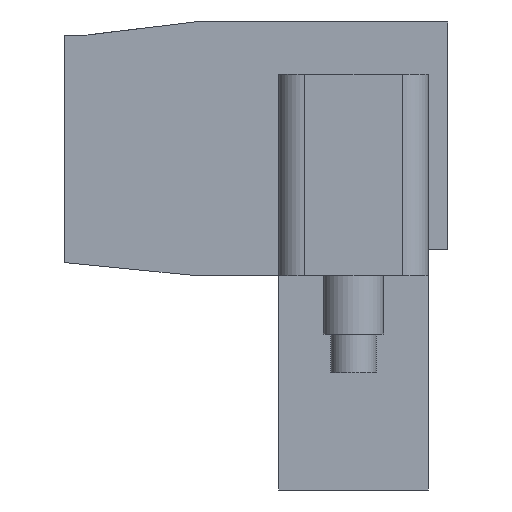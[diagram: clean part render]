
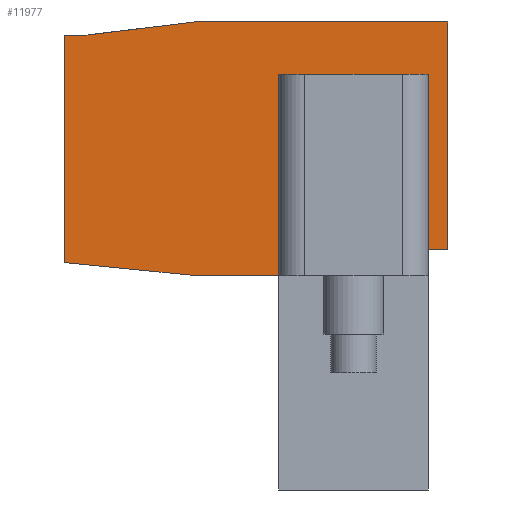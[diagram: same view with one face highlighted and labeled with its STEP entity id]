
A CAD part, left-side view. The second image highlights one B-rep face of the part: STEP entity #11977.
In plain terms, the highlighted planar face has unit normal (-1, 0, 0).
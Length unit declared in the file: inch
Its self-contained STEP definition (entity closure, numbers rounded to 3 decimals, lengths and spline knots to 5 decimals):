
#2965=DIRECTION('',(0.,0.,-1.));
#2966=VECTOR('',#2965,0.31);
#2967=CARTESIAN_POINT('',(-1.5,0.26,0.31));
#2968=LINE('',#2967,#2966);
#2969=DIRECTION('',(0.,-1.,0.));
#2970=VECTOR('',#2969,0.13);
#2971=CARTESIAN_POINT('',(-1.5,0.39,0.));
#2972=LINE('',#2971,#2970);
#2973=DIRECTION('',(0.,-0.995,-0.1));
#2974=VECTOR('',#2973,0.201);
#2975=CARTESIAN_POINT('',(-1.5,0.59,0.02));
#2976=LINE('',#2975,#2974);
#2977=DIRECTION('',(0.,0.,-1.));
#2978=VECTOR('',#2977,0.35);
#2979=CARTESIAN_POINT('',(-1.5,0.59,0.37));
#2980=LINE('',#2979,#2978);
#2981=DIRECTION('',(0.,1.,0.));
#2982=VECTOR('',#2981,0.035);
#2983=CARTESIAN_POINT('',(-1.5,0.555,0.37));
#2984=LINE('',#2983,#2982);
#2985=DIRECTION('',(0.,0.993,-0.12));
#2986=VECTOR('',#2985,0.16621);
#2987=CARTESIAN_POINT('',(-1.5,0.39,0.39));
#2988=LINE('',#2987,#2986);
#2989=DIRECTION('',(0.,1.,0.));
#2990=VECTOR('',#2989,0.39);
#2991=CARTESIAN_POINT('',(-1.5,0.,0.39));
#2992=LINE('',#2991,#2990);
#2993=DIRECTION('',(0.,0.,1.));
#2994=VECTOR('',#2993,0.35);
#2995=CARTESIAN_POINT('',(-1.5,0.,0.04));
#2996=LINE('',#2995,#2994);
#2997=DIRECTION('',(0.,-1.,0.));
#2998=VECTOR('',#2997,0.03);
#2999=CARTESIAN_POINT('',(-1.5,0.03,0.04));
#3000=LINE('',#2999,#2998);
#3001=DIRECTION('',(0.,0.,1.));
#3002=VECTOR('',#3001,0.27);
#3003=CARTESIAN_POINT('',(-1.5,0.03,0.04));
#3004=LINE('',#3003,#3002);
#3005=DIRECTION('',(0.,1.,0.));
#3006=VECTOR('',#3005,0.23);
#3007=CARTESIAN_POINT('',(-1.5,0.03,0.31));
#3008=LINE('',#3007,#3006);
#6043=CARTESIAN_POINT('',(-1.5,0.,0.04));
#6044=CARTESIAN_POINT('',(-1.5,0.,0.39));
#6045=VERTEX_POINT('',#6043);
#6046=VERTEX_POINT('',#6044);
#6047=CARTESIAN_POINT('',(-1.5,0.39,0.39));
#6048=VERTEX_POINT('',#6047);
#6049=CARTESIAN_POINT('',(-1.5,0.555,0.37));
#6050=VERTEX_POINT('',#6049);
#6051=CARTESIAN_POINT('',(-1.5,0.59,0.37));
#6052=VERTEX_POINT('',#6051);
#6053=CARTESIAN_POINT('',(-1.5,0.59,0.02));
#6054=VERTEX_POINT('',#6053);
#6055=CARTESIAN_POINT('',(-1.5,0.39,0.));
#6056=VERTEX_POINT('',#6055);
#6067=CARTESIAN_POINT('',(-1.5,0.26,0.31));
#6068=CARTESIAN_POINT('',(-1.5,0.26,0.));
#6069=VERTEX_POINT('',#6067);
#6070=VERTEX_POINT('',#6068);
#6071=CARTESIAN_POINT('',(-1.5,0.03,0.04));
#6072=CARTESIAN_POINT('',(-1.5,0.03,0.31));
#6073=VERTEX_POINT('',#6071);
#6074=VERTEX_POINT('',#6072);
#11958=CARTESIAN_POINT('',(-1.5,0.,0.));
#11959=DIRECTION('',(-1.,0.,0.));
#11960=DIRECTION('',(0.,0.,1.));
#11961=AXIS2_PLACEMENT_3D('',#11958,#11959,#11960);
#11962=PLANE('',#11961);
#11963=ORIENTED_EDGE('',*,*,#7891,.T.);
#11964=ORIENTED_EDGE('',*,*,#8916,.F.);
#11965=ORIENTED_EDGE('',*,*,#9460,.F.);
#11966=ORIENTED_EDGE('',*,*,#9474,.F.);
#11967=ORIENTED_EDGE('',*,*,#9731,.F.);
#11968=ORIENTED_EDGE('',*,*,#9778,.F.);
#11969=ORIENTED_EDGE('',*,*,#9971,.F.);
#11970=ORIENTED_EDGE('',*,*,#11835,.F.);
#11971=ORIENTED_EDGE('',*,*,#11952,.F.);
#11972=ORIENTED_EDGE('',*,*,#8291,.T.);
#11974=ORIENTED_EDGE('',*,*,#11973,.T.);
#11975=EDGE_LOOP('',(#11963,#11964,#11965,#11966,#11967,#11968,#11969,#11970,
#11971,#11972,#11974));
#11976=FACE_OUTER_BOUND('',#11975,.F.);
#11977=ADVANCED_FACE('',(#11976),#11962,.T.);
#7891=EDGE_CURVE('',#6069,#6070,#2968,.T.);
#8291=EDGE_CURVE('',#6073,#6074,#3004,.T.);
#8916=EDGE_CURVE('',#6056,#6070,#2972,.T.);
#9460=EDGE_CURVE('',#6054,#6056,#2976,.T.);
#9474=EDGE_CURVE('',#6052,#6054,#2980,.T.);
#9731=EDGE_CURVE('',#6050,#6052,#2984,.T.);
#9778=EDGE_CURVE('',#6048,#6050,#2988,.T.);
#9971=EDGE_CURVE('',#6046,#6048,#2992,.T.);
#11835=EDGE_CURVE('',#6045,#6046,#2996,.T.);
#11952=EDGE_CURVE('',#6073,#6045,#3000,.T.);
#11973=EDGE_CURVE('',#6074,#6069,#3008,.T.);
